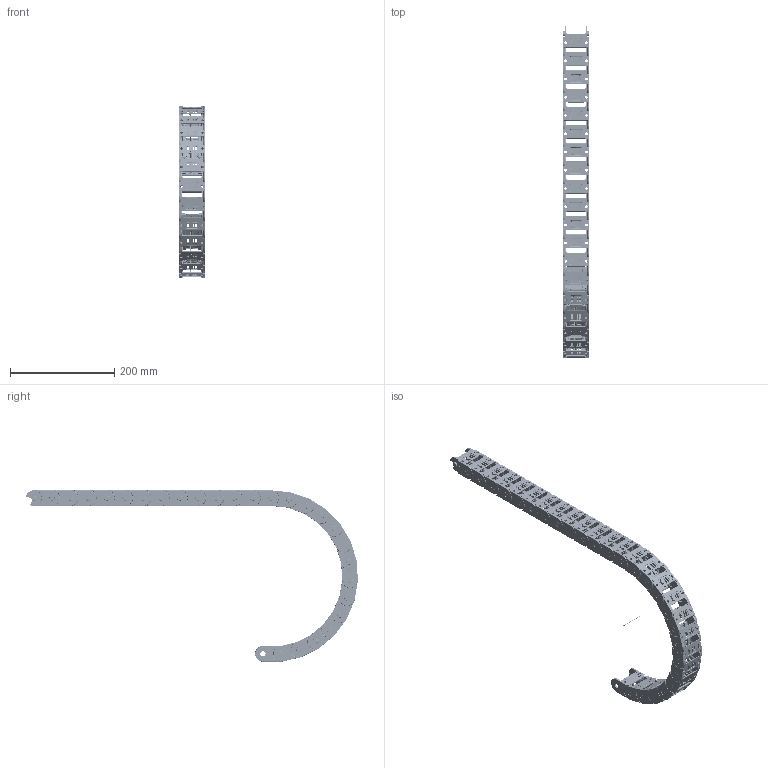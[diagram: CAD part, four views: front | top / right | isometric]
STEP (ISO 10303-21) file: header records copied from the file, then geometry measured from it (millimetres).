
FILE_DESCRIPTION((''),'2;1');
FILE_NAME('C:\Uebbing\PARAMETERKETTEN\KOLIBRI\Kol_30_050_0\KOLIBRI 30_050_0_PARAMETRISCH.stp','2011-11-02T11:37:16',('Uebbing'),(''),'Autodesk Inventor 10','Autodesk Inventor 10','');
FILE_SCHEMA(('AUTOMOTIVE_DESIGN { 1 0 10303 214 1 1 1 1 }'));
Length unit declared in the file: millimetre
Products named in the file (6): KOLIBRI 30_050_0_PARAMETRISCH; Achse; Kol_30_050_0_Glied; Kol 30_050_0 Lasche; Kol 30_050_0 Klappsteg; PZ 30 Stecksteg
Assembly tree (31 placements, depth 3):
  KOLIBRI 30_050_0_PARAMETRISCH
    Achse
    Kol_30_050_0_Glied  x27
      Kol 30_050_0 Lasche
      Kol 30_050_0 Klappsteg
      PZ 30 Stecksteg
Bounding box: 50 x 636.84 x 328.96 mm (x, y, z)
Volume: 420606.1 mm3; surface area: 407524.8 mm2
Topology: 82 solids, 82 shells, 25842 faces, 70609 edges, 46254 vertices
Faces by surface type: plane 13286, bspline 5589, cylinder 5374, torus 1215, cone 216, sphere 162
Full cylindrical faces by diameter (mm): 1 x1, 1.166 x27, 2.048 x27, 2.8 x216, 5.1 x54, 10 x54, 10.1 x54
Entity records: 33216 total; most frequent: CARTESIAN_POINT 9709, ORIENTED_EDGE 5150, DIRECTION 4286, EDGE_CURVE 2575, VERTEX_POINT 1701, VECTOR 1612, LINE 1612, AXIS2_PLACEMENT_3D 1337
